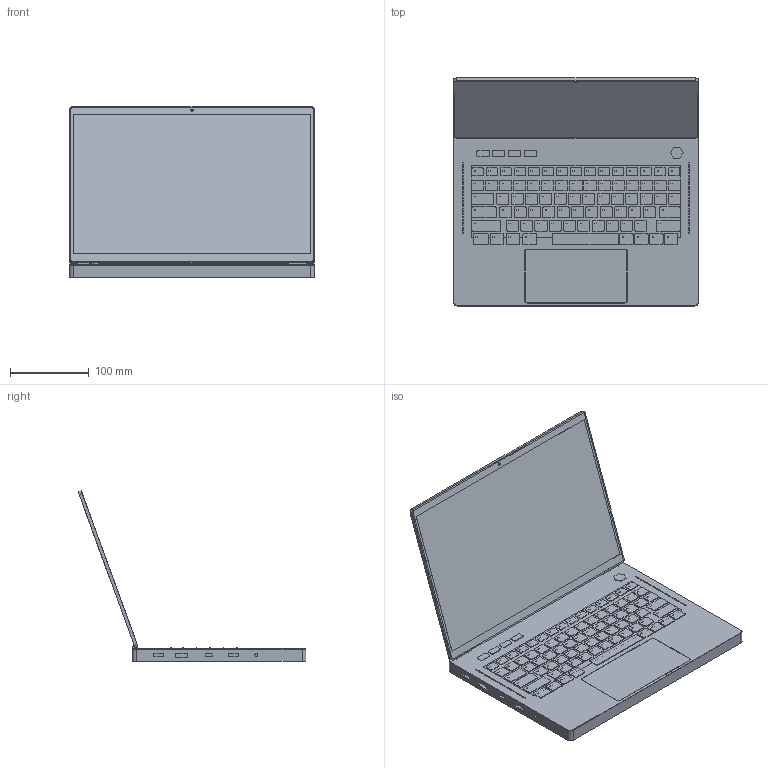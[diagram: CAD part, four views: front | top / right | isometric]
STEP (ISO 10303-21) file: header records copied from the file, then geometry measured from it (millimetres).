
FILE_DESCRIPTION(('Open CASCADE Model'),'2;1');
FILE_NAME('Open CASCADE Shape Model','2026-10-16T01:19:22',('Author'),( 'Open CASCADE'),'Open CASCADE STEP processor 7.9','Open CASCADE 7.9' ,'Unknown');
FILE_SCHEMA(('AUTOMOTIVE_DESIGN { 1 0 10303 214 1 1 1 1 }'));
Length unit declared in the file: millimetre
Products named in the file (15): ASUS_ROG_Zephyrus_G14_GA403_2024; 01_Aluminium_unibody_311x220x15_9; 02_Trackpad_glass; 03_Keyboard_well; 04_Chiclet_keycaps; 05_Approximate_key_legends; 06_ROG_shortcut_keys; 07_Glass_power_button; 08_Speaker_grille_etchings; 09_Stealth_hinge_barrels; 10_Anodized_aluminium_display_lid; 11_Display_black_glass_bezel; 12_OLED_active_panel_14in_16to10; 13_Webcam; 14_Approximate_Slash_lighting
Assembly tree (14 placements, depth 2):
  ASUS_ROG_Zephyrus_G14_GA403_2024
    01_Aluminium_unibody_311x220x15_9
    02_Trackpad_glass
    03_Keyboard_well
    04_Chiclet_keycaps
    05_Approximate_key_legends
    06_ROG_shortcut_keys
    07_Glass_power_button
    08_Speaker_grille_etchings
    09_Stealth_hinge_barrels
    10_Anodized_aluminium_display_lid
    11_Display_black_glass_bezel
    12_OLED_active_panel_14in_16to10
    13_Webcam
    14_Approximate_Slash_lighting
Bounding box: 311 x 289.17 x 216.94 mm (x, y, z)
Volume: 1382850.7 mm3; surface area: 641792.8 mm2
Topology: 218 solids, 218 shells, 1887 faces, 4318 edges, 2876 vertices
Faces by surface type: plane 1343, cylinder 540, cone 4
Full cylindrical faces by diameter (mm): 3 x1, 4 x1, 6 x2
Entity records: 112077 total; most frequent: CARTESIAN_POINT 21004, DIRECTION 17230, LINE 10710, VECTOR 10710, ORIENTED_EDGE 8636, PCURVE 8636, DEFINITIONAL_REPRESENTATION 8636, EDGE_CURVE 4318
